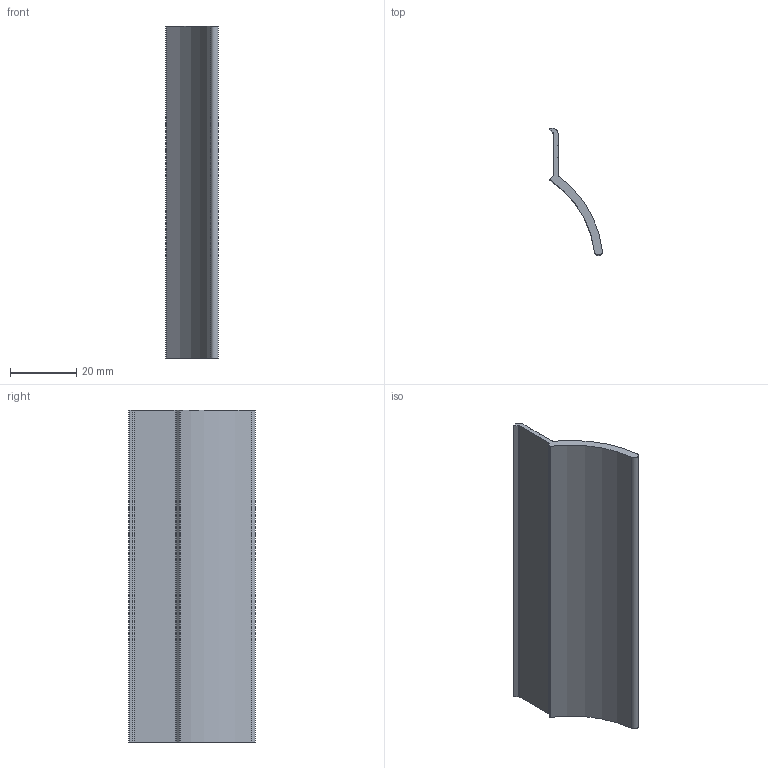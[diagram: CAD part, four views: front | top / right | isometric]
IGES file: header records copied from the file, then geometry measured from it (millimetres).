
Global section: file name: No Iges File Name specified; native system: Autodesk Inventor 2012; preprocessor: AutoDesk Inventor Iges Exporter R2012; author: anna.b; date: 20130830.115939; units: millimetre
Bounding box: 15.88 x 38.1 x 100 mm (x, y, z)
Volume: 8748.8 mm3; surface area: 9133.9 mm2
Topology: 1 solids, 1 shells, 22 faces, 60 edges, 40 vertices
Faces by surface type: plane 13, cylinder 5, revolution 4
